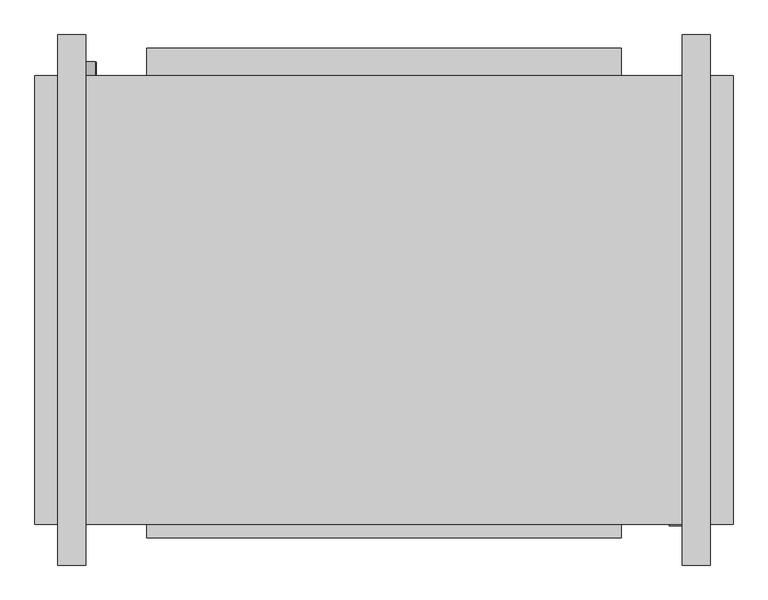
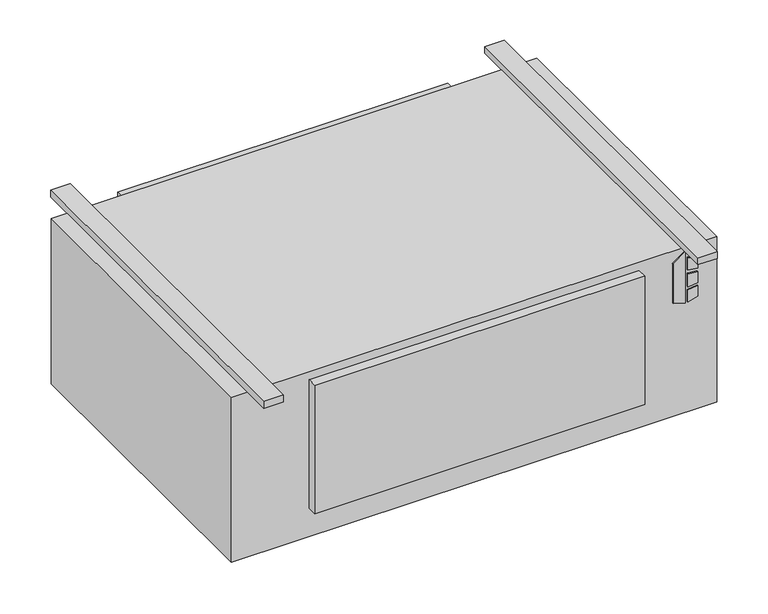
"""IFC4 building model written with IfcOpenShell, lengths in millimetres: proxy geometry, Concealed_High_Capacity_Horizontal_Cabinet_Fan_Coil_Unit_-_HXY_-_IEC_-_4-Pipe_LH_2022 : Size 14 - 277v/60Hz/1Ph - 6/2 Coil."""

from ifc_helpers import new_model, si_unit, point, frame, frame_2d, origin, origin_with_axes, place, context, project, spatial, polyline, circle_curve, trimmed, segment, composite_curve, outline, extrude, source, transform, mapped, element, save


def mechanical_equipment_b749e281(model_context):
    return source(origin(), model_context, "Body", "SweptSolid", [
        extrude(outline(polyline([(-142.4519297, 671.5868862), (-152.4, 703.7602728), (-10.2290756, 703.7602728), (-33.2510817, 671.5868862), (-142.4519297, 671.5868862)])), frame((0.0, -649.2875, 0.0), z_axis=(0.0, 1.0, 0.0), x_axis=(0.0, 0.0, 1.0)), (0.0, 0.0, 1.0), 3.175),
        extrude(outline(polyline([(-63.4526443, 710.5186058), (-66.6550368, 736.6), (-37.4261958, 736.6), (-29.3617807, 710.5186058), (-63.4526443, 710.5186058)])), frame((0.0, -649.2875, 0.0), z_axis=(0.0, 1.0, 0.0), x_axis=(0.0, 0.0, 1.0)), (0.0, 0.0, 1.0), 3.175),
        extrude(outline(polyline([(-115.3161712, 736.6), (-118.9816721, 710.5186058), (-152.4, 710.5186058), (-143.7657628, 736.6), (-115.3161712, 736.6)])), frame((0.0, -649.2875, 0.0), z_axis=(0.0, 1.0, 0.0), x_axis=(0.0, 0.0, 1.0)), (0.0, 0.0, 1.0), 3.175),
        extrude(outline(polyline([(-76.0010097, 736.6), (-73.7191834, 710.5186058), (-109.6567319, 710.5186058), (-106.9154669, 736.6), (-76.0010097, 736.6)])), frame((0.0, -649.2875, 0.0), z_axis=(0.0, 1.0, 0.0), x_axis=(0.0, 0.0, 1.0)), (0.0, 0.0, 1.0), 3.175),
        extrude(outline(composite_curve([segment(trimmed(circle_curve(frame_2d((-406.4, -381.0)), 9.525), [point((-406.4, -390.525))], [point((-406.4, -371.475))], False, "CARTESIAN"), True, "CONTINUOUS"), segment(trimmed(circle_curve(frame_2d((-406.4, -381.0)), 9.525), [point((-406.4, -371.475))], [point((-406.4, -390.525))], False, "CARTESIAN"), True, "CONTINUOUS")], self_intersect=False)), frame((0.0, 169.8625, 0.0), z_axis=(0.0, 1.0, 0.0), x_axis=(0.0, 0.0, 1.0)), (0.0, 0.0, 1.0), 25.4),
        extrude(outline(composite_curve([segment(trimmed(circle_curve(frame_2d((-330.2, -381.0)), 7.9375), [point((-330.2, -388.9375))], [point((-330.2, -373.0625))], False, "CARTESIAN"), True, "CONTINUOUS"), segment(trimmed(circle_curve(frame_2d((-330.2, -381.0)), 7.9375), [point((-330.2, -373.0625))], [point((-330.2, -388.9375))], False, "CARTESIAN"), True, "CONTINUOUS")], self_intersect=False)), frame((0.0, 169.8625, 0.0), z_axis=(0.0, 1.0, 0.0), x_axis=(0.0, 0.0, 1.0)), (0.0, 0.0, 1.0), 25.4),
        extrude(outline(composite_curve([segment(trimmed(circle_curve(frame_2d((-254.0, -381.0)), 7.9375), [point((-254.0, -388.9375))], [point((-254.0, -373.0625))], False, "CARTESIAN"), True, "CONTINUOUS"), segment(trimmed(circle_curve(frame_2d((-254.0, -381.0)), 7.9375), [point((-254.0, -373.0625))], [point((-254.0, -388.9375))], False, "CARTESIAN"), True, "CONTINUOUS")], self_intersect=False)), frame((0.0, 169.8625, 0.0), z_axis=(0.0, 1.0, 0.0), x_axis=(0.0, 0.0, 1.0)), (0.0, 0.0, 1.0), 25.4),
        extrude(outline(composite_curve([segment(trimmed(circle_curve(frame_2d((-177.8, -381.0)), 7.9375), [point((-177.8, -388.9375))], [point((-177.8, -373.0625))], False, "CARTESIAN"), True, "CONTINUOUS"), segment(trimmed(circle_curve(frame_2d((-177.8, -381.0)), 7.9375), [point((-177.8, -373.0625))], [point((-177.8, -388.9375))], False, "CARTESIAN"), True, "CONTINUOUS")], self_intersect=False)), frame((0.0, 169.8625, 0.0), z_axis=(0.0, 1.0, 0.0), x_axis=(0.0, 0.0, 1.0)), (0.0, 0.0, 1.0), 25.4),
        extrude(outline(composite_curve([segment(trimmed(circle_curve(frame_2d((-101.6, -381.0)), 7.9375), [point((-101.6, -388.9375))], [point((-101.6, -373.0625))], False, "CARTESIAN"), True, "CONTINUOUS"), segment(trimmed(circle_curve(frame_2d((-101.6, -381.0)), 7.9375), [point((-101.6, -373.0625))], [point((-101.6, -388.9375))], False, "CARTESIAN"), True, "CONTINUOUS")], self_intersect=False)), frame((0.0, 169.8625, 0.0), z_axis=(0.0, 1.0, 0.0), x_axis=(0.0, 0.0, 1.0)), (0.0, 0.0, 1.0), 25.4),
        extrude(outline(polyline([(787.4, 169.8625), (787.4, -646.1125), (-482.6, -646.1125), (-482.6, 169.8625), (787.4, 169.8625)])), frame((0.0, 0.0, -457.2), z_axis=(0.0, 0.0, 1.0), x_axis=(1.0, 0.0, 0.0)), (0.0, 0.0, 1.0), 457.2),
        extrude(outline(polyline([(-279.4, 220.6625), (584.2, 220.6625), (584.2, 169.8625), (-279.4, 169.8625), (-279.4, 220.6625)])), frame((0.0, 0.0, -377.825), z_axis=(0.0, 0.0, 1.0), x_axis=(1.0, 0.0, 0.0)), (0.0, 0.0, 1.0), 349.25),
        extrude(outline(polyline([(-390.525, 244.475), (-390.525, -720.725), (-441.325, -720.725), (-441.325, 244.475), (-390.525, 244.475)])), origin_with_axes(), (0.0, 0.0, 1.0), 19.05),
        extrude(outline(polyline([(746.125, 244.475), (746.125, -720.725), (695.325, -720.725), (695.325, 244.475), (746.125, 244.475)])), origin_with_axes(), (0.0, 0.0, 1.0), 19.05),
        extrude(outline(polyline([(584.2, -671.5125), (-279.4, -671.5125), (-279.4, -646.1125), (584.2, -646.1125), (584.2, -671.5125)])), frame((0.0, 0.0, -377.825), z_axis=(0.0, 0.0, 1.0), x_axis=(1.0, 0.0, 0.0)), (0.0, 0.0, 1.0), 355.6),
    ])


if __name__ == "__main__":
    model = new_model("IFC4")
    model_context = context("Model", 3, world=origin())
    ifc_project = project(units=[si_unit("LENGTHUNIT", "METRE", prefix="MILLI")], contexts=[model_context])
    site = spatial("IfcSite", under=ifc_project)
    building = spatial("IfcBuilding", under=site)
    placement = place(None, origin())
    mechanical_equipment_shape = mechanical_equipment_b749e281(model_context)
    element("IfcBuildingElementProxy", 1, Name="Concealed_High_Capacity_Horizontal_Cabinet_Fan_Coil_Unit_-_HXY_-_IEC_-_4-Pipe_LH_2022 : Size 14 - 277v/60Hz/1Ph - 6/2 Coil", ObjectType="Concealed_High_Capacity_Horizontal_Cabinet_Fan_Coil_Unit_-_HXY_-_IEC_-_4-Pipe_LH_2022 : Size 14 - 277v/60Hz/1Ph - 6/2 Coil", at=placement, inside=building, context=model_context, shape_type="MappedRepresentation", body=[
        mapped(mechanical_equipment_shape, transform((0.0, 0.0, 0.0), x_axis=(1.0, 0.0, 0.0), y_axis=(0.0, 1.0, 0.0), z_axis=(0.0, 0.0, 1.0))),
    ])
    save(model, "model.ifc")
